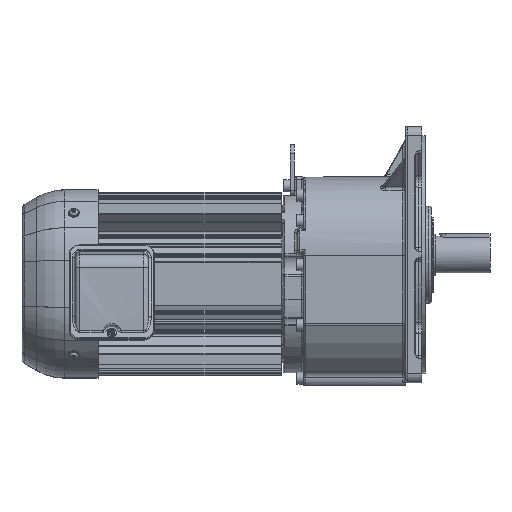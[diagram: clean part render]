
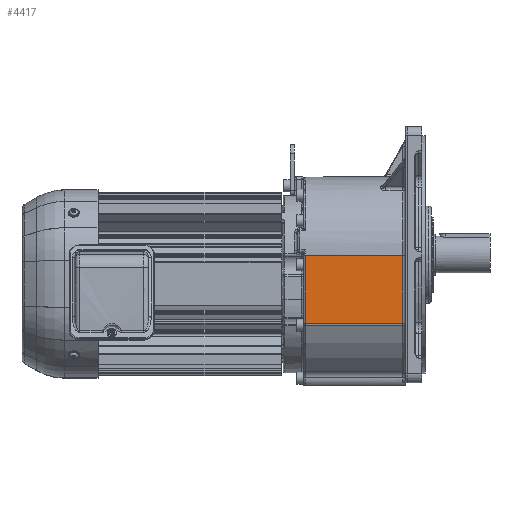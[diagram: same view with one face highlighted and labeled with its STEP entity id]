
A CAD part, front view. The second image highlights one B-rep face of the part: STEP entity #4417.
In plain terms, the highlighted planar face has unit normal (0, -1, 0).
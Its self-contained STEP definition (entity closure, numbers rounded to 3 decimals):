
#4417 = ADVANCED_FACE( '', ( #10122 ), #10123, .T. );
#10122 = FACE_OUTER_BOUND( '', #26253, .T. );
#10123 = PLANE( '', #26254 );
#26253 = EDGE_LOOP( '', ( #47520, #47521, #47522, #47523 ) );
#26254 = AXIS2_PLACEMENT_3D( '', #47524, #47525, #47526 );
#47520 = ORIENTED_EDGE( '', *, *, #58522, .T. );
#47521 = ORIENTED_EDGE( '', *, *, #61137, .T. );
#47522 = ORIENTED_EDGE( '', *, *, #57246, .F. );
#47523 = ORIENTED_EDGE( '', *, *, #56773, .T. );
#47524 = CARTESIAN_POINT( '', ( 10.586, -258.152, 5.742 ) );
#47525 = DIRECTION( '', ( 0., -1., 0. ) );
#47526 = DIRECTION( '', ( -1., 0., 0. ) );
#56773 = EDGE_CURVE( '', #64326, #64331, #64333, .T. );
#57246 = EDGE_CURVE( '', #64326, #65150, #65151, .T. );
#58522 = EDGE_CURVE( '', #64331, #67217, #67219, .T. );
#61137 = EDGE_CURVE( '', #67217, #65150, #71059, .F. );
#64326 = VERTEX_POINT( '', #75736 );
#64331 = VERTEX_POINT( '', #75742 );
#64333 = LINE( '', #75744, #75745 );
#65150 = VERTEX_POINT( '', #78165 );
#65151 = LINE( '', #78166, #78167 );
#67217 = VERTEX_POINT( '', #82327 );
#67219 = LINE( '', #82329, #82330 );
#71059 = LINE( '', #89922, #89923 );
#75736 = CARTESIAN_POINT( '', ( 107.086, -258.152, -67.918 ) );
#75742 = CARTESIAN_POINT( '', ( 107.086, -258.152, 5.742 ) );
#75744 = CARTESIAN_POINT( '', ( 107.086, -258.152, -67.918 ) );
#75745 = VECTOR( '', #95999, 1000. );
#78165 = CARTESIAN_POINT( '', ( 1.086, -258.152, -67.918 ) );
#78166 = CARTESIAN_POINT( '', ( 10.586, -258.152, -67.918 ) );
#78167 = VECTOR( '', #96654, 1000. );
#82327 = CARTESIAN_POINT( '', ( 1.086, -258.152, 5.742 ) );
#82329 = CARTESIAN_POINT( '', ( 10.586, -258.152, 5.742 ) );
#82330 = VECTOR( '', #98664, 1000. );
#89922 = CARTESIAN_POINT( '', ( 1.086, -258.152, -67.918 ) );
#89923 = VECTOR( '', #102745, 1000. );
#95999 = DIRECTION( '', ( 0., 0., 1. ) );
#96654 = DIRECTION( '', ( -1., 0., 0. ) );
#98664 = DIRECTION( '', ( -1., 0., 0. ) );
#102745 = DIRECTION( '', ( 0., 0., 1. ) );
